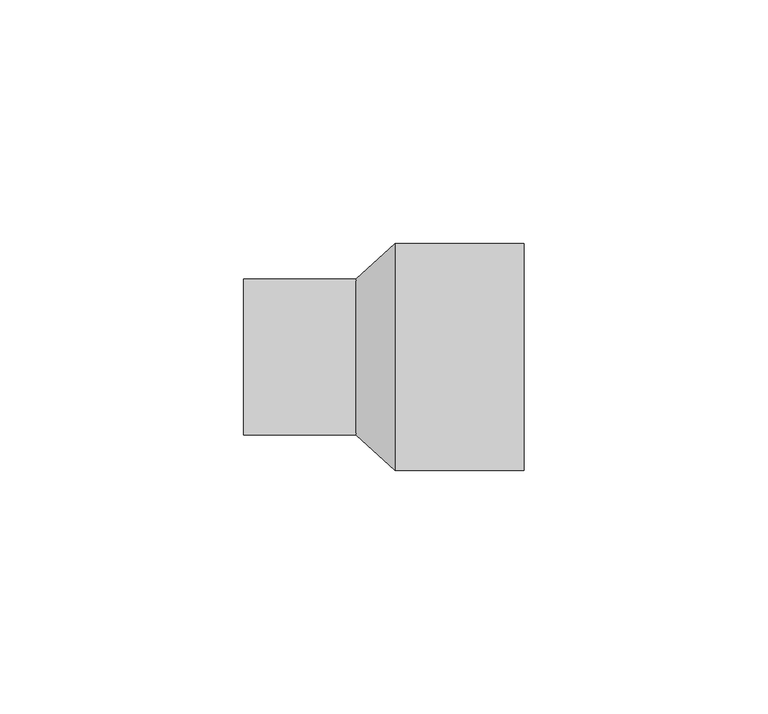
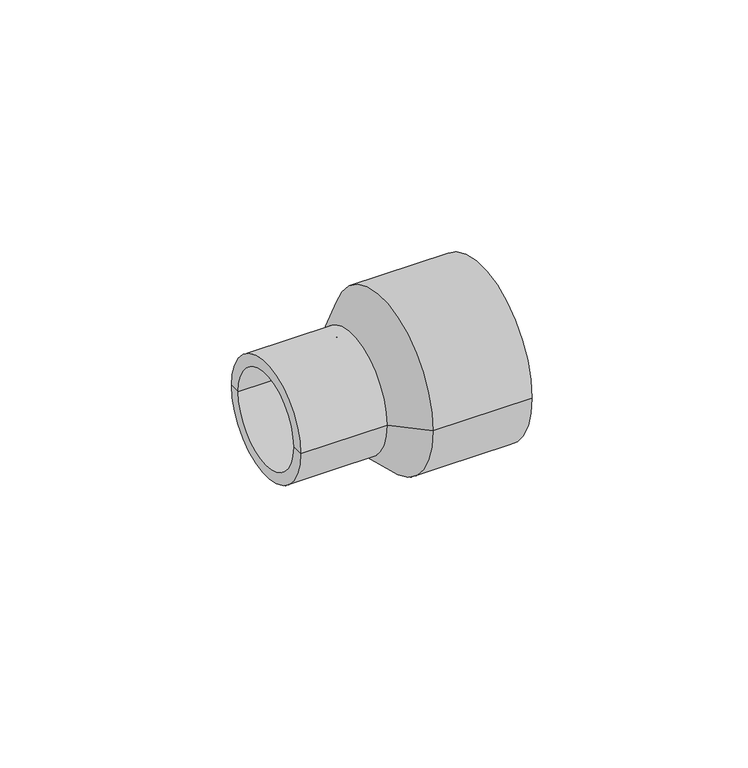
"""IFC4 building model written with IfcOpenShell, lengths in millimetres: pipe fitting geometry, NLRS_52_UN_PIF_PVC overgangsstuk PVC-Metaal MS_PipeLife : Grijs, var. DN/OD."""

import ifcopenshell
import ifcopenshell.guid

model = None  # the IFC model being written
_history = None  # IfcOwnerHistory: only IFC2X3 demands one
_inside = {}  # id of a spatial element -> (the spatial element, [elements in it])
_under = {}  # id of a project, library or spatial element -> (it, [spatial elements below it])
_declared = {}  # id of a project -> (the project, [libraries it declares])
_typed = {}  # id of a type object -> (the type object, [elements of that type])
_made_of = {}  # id of a material, layer set ... -> (it, [elements and type objects made of it])


def new_model(schema):
    """Start an empty IFC model of exactly this schema.

    Asked for "IFC4X3", IfcOpenShell would pick the latest addendum, in which some entities
    have other attributes; the version numbers below select the first issue.
    IFC2X3 requires an IfcOwnerHistory on every rooted entity: one is made here for all.
    """
    global model, _history
    if schema == "IFC4X3":
        model = ifcopenshell.file(schema_version=(4, 3, 0, 0))
    else:
        model = ifcopenshell.file(schema=schema)
    _inside.clear()
    _under.clear()
    _declared.clear()
    _typed.clear()
    _made_of.clear()
    _history = None
    if model.schema == "IFC2X3":
        org = make("IfcOrganization", Name="unknown")
        user = make(
            "IfcPersonAndOrganization",
            ThePerson=make("IfcPerson", FamilyName="unknown"),
            TheOrganization=org,
        )
        app = make(
            "IfcApplication",
            ApplicationDeveloper=org,
            Version="unknown",
            ApplicationFullName="unknown",
            ApplicationIdentifier="unknown",
        )
        _history = make(
            "IfcOwnerHistory",
            OwningUser=user,
            OwningApplication=app,
            ChangeAction="ADDED",
            CreationDate=0,
        )
    return model


def make(cls, **values):
    """One entity of the class cls with the attributes given. An attribute that is None is left unset."""
    return model.create_entity(
        cls, **{name: value for name, value in values.items() if value is not None}
    )


def rooted(cls, **values):
    """An entity with a GlobalId (a new one), such as an element, a storey or a relation."""
    return make(cls, GlobalId=ifcopenshell.guid.new(), OwnerHistory=_history, **values)


def si_unit(unit_type, name, prefix=None):
    """IfcSIUnit, for example si_unit("LENGTHUNIT", "METRE", prefix="MILLI")."""
    return make("IfcSIUnit", UnitType=unit_type, Prefix=prefix, Name=name)


def assignment(units):
    """IfcUnitAssignment: the units of a project."""
    return None if units is None else make("IfcUnitAssignment", Units=units)


def point(xyz):
    """IfcCartesianPoint."""
    return None if xyz is None else make("IfcCartesianPoint", Coordinates=xyz)


def direction(xyz):
    """IfcDirection."""
    return None if xyz is None else make("IfcDirection", DirectionRatios=xyz)


def frame(location, z_axis=None, x_axis=None):
    """IfcAxis2Placement3D, a coordinate frame: its origin and axes. An axis left out is left unset."""
    return make(
        "IfcAxis2Placement3D",
        Location=point(location),
        Axis=direction(z_axis),
        RefDirection=direction(x_axis),
    )


def origin():
    """The frame at (0, 0, 0) with its axes left unset."""
    return frame((0.0, 0.0, 0.0))


def place(relative_to, where):
    """IfcLocalPlacement: puts the frame where relative to a parent placement (None: the world)."""
    return make(
        "IfcLocalPlacement", PlacementRelTo=relative_to, RelativePlacement=where
    )


def context(
    kind, dimensions, precision=None, world=None, true_north=None, identifier=None
):
    """IfcGeometricRepresentationContext, for example the 3D "Model" context."""
    return make(
        "IfcGeometricRepresentationContext",
        ContextIdentifier=identifier,
        ContextType=kind,
        CoordinateSpaceDimension=dimensions,
        Precision=precision,
        WorldCoordinateSystem=world,
        TrueNorth=true_north,
    )


def project(units=None, contexts=None):
    """IfcProject with its units and contexts."""
    return rooted(
        "IfcProject",
        Name="project",
        RepresentationContexts=contexts,
        UnitsInContext=assignment(units),
    )


def spatial(cls, under=None, at=None, **own):
    """A site, building, storey or space (cls), placed at a placement, below another one or the project."""
    s = rooted(cls, ObjectPlacement=at, **own)
    if under is not None:
        _under.setdefault(under.id(), (under, []))[1].append(s)
    return s


def polyline(points):
    """IfcPolyline through the points."""
    return make("IfcPolyline", Points=[point(p) for p in points])


def circle_curve(where, radius):
    """IfcCircle in the frame where."""
    return make("IfcCircle", Position=where, Radius=radius)


def shape(context_of_items, identifier, shape_type, items):
    """IfcShapeRepresentation: the items that make up one representation, for example the "Body"."""
    return make(
        "IfcShapeRepresentation",
        ContextOfItems=context_of_items,
        RepresentationIdentifier=identifier,
        RepresentationType=shape_type,
        Items=items,
    )


def source(mapping_origin, context_of_items, identifier, shape_type, items):
    """IfcRepresentationMap: a shape defined once, which mapped items show again and again."""
    return make(
        "IfcRepresentationMap",
        MappingOrigin=mapping_origin,
        MappedRepresentation=shape(context_of_items, identifier, shape_type, items),
    )


def transform(
    local_origin,
    x_axis=None,
    y_axis=None,
    z_axis=None,
    scale=None,
    scale2=None,
    scale3=None,
    uniform=True,
):
    """IfcCartesianTransformationOperator3D, or its non-uniform kind. x_axis, y_axis, z_axis: its Axis1, 2, 3."""
    if uniform:
        return make(
            "IfcCartesianTransformationOperator3D",
            Axis1=direction(x_axis),
            Axis2=direction(y_axis),
            LocalOrigin=point(local_origin),
            Scale=scale,
            Axis3=direction(z_axis),
        )
    return make(
        "IfcCartesianTransformationOperator3DnonUniform",
        Axis1=direction(x_axis),
        Axis2=direction(y_axis),
        LocalOrigin=point(local_origin),
        Scale=scale,
        Axis3=direction(z_axis),
        Scale2=scale2,
        Scale3=scale3,
    )


def mapped(mapping_source, mapping_target):
    """IfcMappedItem: shows the shape of a source again, moved by a transform."""
    return make(
        "IfcMappedItem", MappingSource=mapping_source, MappingTarget=mapping_target
    )


def made_of(thing, what):
    """Note that an element or type object is made of a material, layer set ...; save() writes the relation."""
    if what is not None:
        _made_of.setdefault(what.id(), (what, []))[1].append(thing)
    return thing


def element(
    cls,
    number,
    at=None,
    inside=None,
    cuts=None,
    type_object=None,
    material=None,
    context=None,
    identifier="Body",
    shape_type=None,
    held_by="IfcProductDefinitionShape",
    body=None,
    shapes=None,
    **own,
):
    """One element of the class cls, such as IfcWall. Its Tag is "e" and its number.

    at: its placement. inside: the storey or other place that contains it. cuts: it is an
    opening in that element (IfcRelVoidsElement). A single representation is given by context,
    identifier, shape_type and body (its items); several are given by shapes. held_by: the class
    of the entity that holds the representations. save() writes the other relations.
    """
    e = rooted(cls, Tag="e%d" % number, ObjectPlacement=at, **own)
    if body is not None:
        shapes = [shape(context, identifier, shape_type, body)]
    if shapes is not None:
        e.Representation = make(held_by, Representations=shapes)
    if inside is not None:
        _inside.setdefault(inside.id(), (inside, []))[1].append(e)
    if cuts is not None:
        rooted(
            "IfcRelVoidsElement", RelatingBuildingElement=cuts, RelatedOpeningElement=e
        )
    if type_object is not None:
        _typed.setdefault(type_object.id(), (type_object, []))[1].append(e)
    return made_of(e, material)


def aggregate(whole, parts):
    """IfcRelAggregates: a whole, such as a stair, and the parts it consists of."""
    return rooted("IfcRelAggregates", RelatingObject=whole, RelatedObjects=parts)


def save(model, path):
    """Write the relations noted so far, then the file.

    IfcRelAggregates (storeys below a building ...), IfcRelContainedInSpatialStructure (elements
    in a storey), IfcRelDefinesByType, IfcRelAssociatesMaterial and IfcRelDeclares: one each for
    every whole, place, type object, material and project.
    """
    for whole, parts in _under.values():
        aggregate(whole, parts)
    for where, things in _inside.values():
        rooted(
            "IfcRelContainedInSpatialStructure",
            RelatedElements=things,
            RelatingStructure=where,
        )
    for kind, things in _typed.values():
        rooted("IfcRelDefinesByType", RelatedObjects=things, RelatingType=kind)
    for what, things in _made_of.values():
        rooted("IfcRelAssociatesMaterial", RelatedObjects=things, RelatingMaterial=what)
    for by, libraries in _declared.values():
        rooted("IfcRelDeclares", RelatingContext=by, RelatedDefinitions=libraries)
    model.write(path)


def plane_surface(at):
    """IfcPlane: the flat surface through the origin of the frame at, square to its z axis."""
    return make("IfcPlane", Position=at)


def cylinder_surface(at, radius):
    """IfcCylindricalSurface: all points at the distance radius from the z axis of the frame at."""
    return make("IfcCylindricalSurface", Position=at, Radius=radius)


def revolved_surface(curve, axis_point, axis_direction):
    """IfcSurfaceOfRevolution: the curve turned about the line through axis_point along axis_direction."""
    return make(
        "IfcSurfaceOfRevolution",
        SweptCurve=make("IfcArbitraryOpenProfileDef", ProfileType="CURVE", Curve=curve),
        AxisPosition=make("IfcAxis1Placement", Location=point(axis_point), Axis=direction(axis_direction)),
    )


def advanced_brep(points, edges, surfaces, faces):
    """IfcAdvancedBrep: a solid bounded by faces that lie on surfaces and meet in shared edges.

    An edge is (start, end): straight between two places in points (the first is 0);
    or (start, end, curve); or (start, end, curve, False) where it runs against its curve.
    A face is (place in surfaces, loops), or (place, loops, False) where it looks against
    its surface's normal. A loop lists edges by number (the first is 1), with a minus sign
    where the edge is run from its end to its start. The first loop is the outer one.
    """
    corners = [point(p) for p in points]
    vertices = [make("IfcVertexPoint", VertexGeometry=c) for c in corners]
    made = []
    for start, end, *more in edges:
        made.append(
            make(
                "IfcEdgeCurve",
                EdgeStart=vertices[start],
                EdgeEnd=vertices[end],
                EdgeGeometry=more[0] if more else make("IfcPolyline", Points=[corners[start], corners[end]]),
                SameSense=more[1] if len(more) > 1 else True,
            )
        )
    hull = []
    for where, loops, *sense in faces:
        bounds = []
        for j, loop in enumerate(loops):
            ring = [make("IfcOrientedEdge", EdgeElement=made[abs(k) - 1], Orientation=k > 0) for k in loop]
            bounds.append(
                make(
                    "IfcFaceOuterBound" if j == 0 else "IfcFaceBound",
                    Bound=make("IfcEdgeLoop", EdgeList=ring),
                    Orientation=True,
                )
            )
        hull.append(make("IfcAdvancedFace", Bounds=bounds, FaceSurface=surfaces[where], SameSense=sense[0] if sense else True))
    return make("IfcAdvancedBrep", Outer=make("IfcClosedShell", CfsFaces=hull))


def pipe_fitting_538497f1(model_context):
    return source(origin(), model_context, "Body", "AdvancedBrep", [
        advanced_brep(
        [(-2.55, 23.35, 0.0), (-2.55, -23.35, 0.0), (-10.55, -16.0, 0.0), (-10.55, 16.0, 0.0), (23.95, 23.35, 0.0), (23.95, -23.35, 0.0), (23.95, 20.15, 0.0), (23.95, -20.15, 0.0), (-2.55, 20.15, 0.0), (-2.55, -20.15, 0.0), (-10.55, 12.9, 0.0), (-10.55, -12.9, 0.0), (-33.75, 12.9, 0.0), (-33.75, -12.9, 0.0), (-33.75, 16.0, 0.0), (-33.75, -16.0, 0.0)],
        [
            (0, 1, circle_curve(frame((-2.55, 0.0, 0.0), z_axis=(-1.0, 0.0, 0.0), x_axis=(0.0, -1.0, 0.0)), 23.35)),
            (1, 2),
            (2, 3, circle_curve(frame((-10.55, 0.0, 0.0), z_axis=(1.0, 0.0, 0.0), x_axis=(0.0, -1.0, 0.0)), 16.0)),
            (3, 0),
            (1, 0, circle_curve(frame((-2.55, 0.0, 0.0), z_axis=(-1.0, 0.0, 0.0), x_axis=(0.0, -1.0, 0.0)), 23.35)),
            (3, 2, circle_curve(frame((-10.55, 0.0, 0.0), z_axis=(1.0, 0.0, 0.0), x_axis=(0.0, -1.0, 0.0)), 16.0)),
            (4, 5, circle_curve(frame((23.95, 0.0, 0.0), z_axis=(-1.0, 0.0, 0.0), x_axis=(0.0, -1.0, 0.0)), 23.35)),
            (5, 1),
            (0, 4),
            (5, 4, circle_curve(frame((23.95, 0.0, 0.0), z_axis=(-1.0, 0.0, 0.0), x_axis=(0.0, -1.0, 0.0)), 23.35)),
            (6, 7, circle_curve(frame((23.95, 0.0, 0.0), z_axis=(-1.0, 0.0, 0.0), x_axis=(0.0, -1.0, 0.0)), 20.15)),
            (7, 5),
            (4, 6),
            (7, 6, circle_curve(frame((23.95, 0.0, 0.0), z_axis=(-1.0, 0.0, 0.0), x_axis=(0.0, -1.0, 0.0)), 20.15)),
            (8, 9, circle_curve(frame((-2.55, 0.0, 0.0), z_axis=(-1.0, 0.0, 0.0), x_axis=(0.0, -1.0, 0.0)), 20.15)),
            (9, 7),
            (6, 8),
            (9, 8, circle_curve(frame((-2.55, 0.0, 0.0), z_axis=(-1.0, 0.0, 0.0), x_axis=(0.0, -1.0, 0.0)), 20.15)),
            (10, 11, circle_curve(frame((-10.55, 0.0, 0.0), z_axis=(-1.0, 0.0, 0.0), x_axis=(0.0, -1.0, 0.0)), 12.9)),
            (11, 9),
            (8, 10),
            (11, 10, circle_curve(frame((-10.55, 0.0, 0.0), z_axis=(-1.0, 0.0, 0.0), x_axis=(0.0, -1.0, 0.0)), 12.9)),
            (12, 13, circle_curve(frame((-33.75, 0.0, 0.0), z_axis=(-1.0, 0.0, 0.0), x_axis=(0.0, -1.0, 0.0)), 12.9)),
            (13, 11),
            (10, 12),
            (13, 12, circle_curve(frame((-33.75, 0.0, 0.0), z_axis=(-1.0, 0.0, 0.0), x_axis=(0.0, -1.0, 0.0)), 12.9)),
            (14, 15, circle_curve(frame((-33.75, 0.0, 0.0), z_axis=(-1.0, 0.0, 0.0), x_axis=(0.0, -1.0, 0.0)), 16.0)),
            (15, 13),
            (12, 14),
            (15, 14, circle_curve(frame((-33.75, 0.0, 0.0), z_axis=(-1.0, 0.0, 0.0), x_axis=(0.0, -1.0, 0.0)), 16.0)),
            (2, 15),
            (14, 3),
        ],
        [
            revolved_surface(polyline([(-10.55, -16.0, 0.0), (-2.55, -23.35, 0.0)]), (-33.75, 0.0, 0.0), (1.0, 0.0, 0.0)),
            cylinder_surface(frame((-33.75, 0.0, 0.0), z_axis=(1.0, 0.0, 0.0), x_axis=(0.0, -1.0, 0.0)), 23.35),
            plane_surface(frame((23.95, 0.0, 0.0), z_axis=(1.0, 0.0, 0.0), x_axis=(0.0, -1.0, 0.0))),
            revolved_surface(polyline([(23.950000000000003, -20.15, 0.0), (-2.5500000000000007, -20.15, 0.0)]), (-33.75, 0.0, 0.0), (1.0, 0.0, 0.0)),
            revolved_surface(polyline([(-2.55, -20.15, 0.0), (-10.55, -12.9, 0.0)]), (-33.75, 0.0, 0.0), (1.0, 0.0, 0.0)),
            revolved_surface(polyline([(-10.55, -12.9, 0.0), (-33.75, -12.9, 0.0)]), (-33.75, 0.0, 0.0), (1.0, 0.0, 0.0)),
            plane_surface(frame((-33.75, 0.0, 0.0), z_axis=(-1.0, 0.0, 0.0), x_axis=(0.0, -1.0, 0.0))),
            cylinder_surface(frame((-33.75, 0.0, 0.0), z_axis=(1.0, 0.0, 0.0), x_axis=(0.0, -1.0, 0.0)), 16.0),
        ],
        [
            (0, [[1, 2, 3, 4]]),
            (0, [[5, -4, 6, -2]]),
            (1, [[7, 8, -1, 9]]),
            (1, [[10, -9, -5, -8]]),
            (2, [[11, 12, -7, 13]]),
            (2, [[14, -13, -10, -12]]),
            (3, [[15, 16, -11, 17]]),
            (3, [[18, -17, -14, -16]]),
            (4, [[19, 20, -15, 21]]),
            (4, [[22, -21, -18, -20]]),
            (5, [[23, 24, -19, 25]]),
            (5, [[26, -25, -22, -24]]),
            (6, [[27, 28, -23, 29]]),
            (6, [[30, -29, -26, -28]]),
            (7, [[-3, 31, -27, 32]]),
            (7, [[-6, -32, -30, -31]]),
        ],
    ),
    ])


if __name__ == "__main__":
    model = new_model("IFC4")
    model_context = context("Model", 3, world=origin())
    ifc_project = project(units=[si_unit("LENGTHUNIT", "METRE", prefix="MILLI")], contexts=[model_context])
    site = spatial("IfcSite", under=ifc_project)
    building = spatial("IfcBuilding", under=site)
    placement = place(None, origin())
    pipe_fitting_shape = pipe_fitting_538497f1(model_context)
    element("IfcPipeFitting", 1, ObjectType="NLRS_52_UN_PIF_PVC overgangsstuk PVC-Metaal MS_PipeLife : Grijs, var. DN/OD", at=placement, inside=building, context=model_context, shape_type="MappedRepresentation", body=[
        mapped(pipe_fitting_shape, transform((0.0, 0.0, 0.0), x_axis=(1.0, 0.0, 0.0), y_axis=(0.0, 1.0, 0.0), z_axis=(0.0, 0.0, 1.0))),
    ])
    save(model, "model.ifc")
